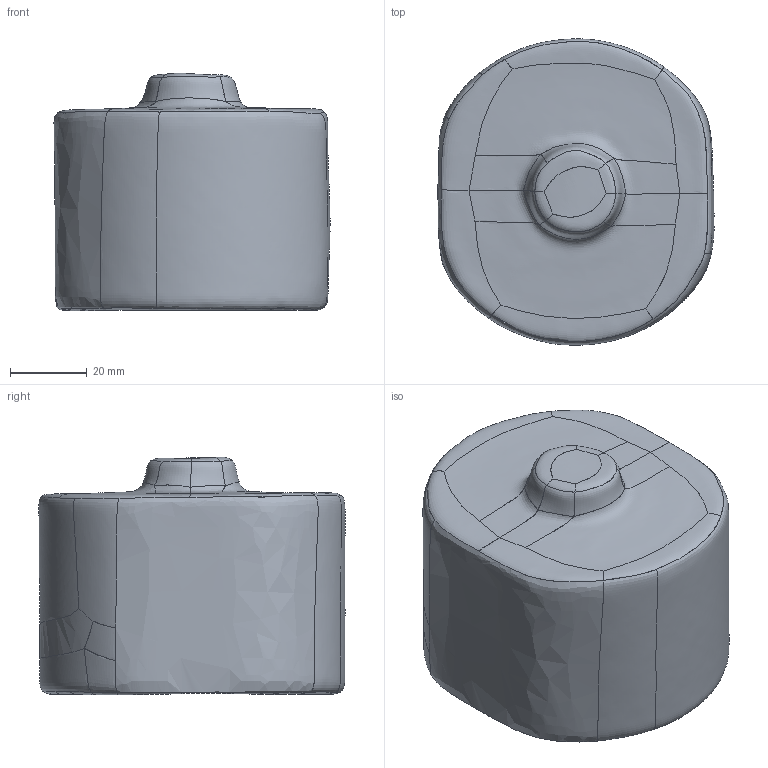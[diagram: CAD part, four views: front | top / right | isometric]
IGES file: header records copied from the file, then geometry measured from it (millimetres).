
Start section:  PTC IGES file: F:\Client Files Jan 2015\AAA Geo Training Exercise\Web P art Model.igs
Global section: file name: F:\Client Files Jan 2015\AAA Geo Training Exercise\Web Part Model.igs; native system:  by Parametric Technology Corporation; preprocessor: 2012230; organization: Unknown; date: 20150316.160224; units: inch
Bounding box: 72.18 x 80.06 x 62.1 mm (x, y, z)
Surface area: 23768.7 mm2 (no closed solid volume)
Topology: 0 solids, 0 shells, 43 faces, 434 edges, 434 vertices
Faces by surface type: bspline 43
